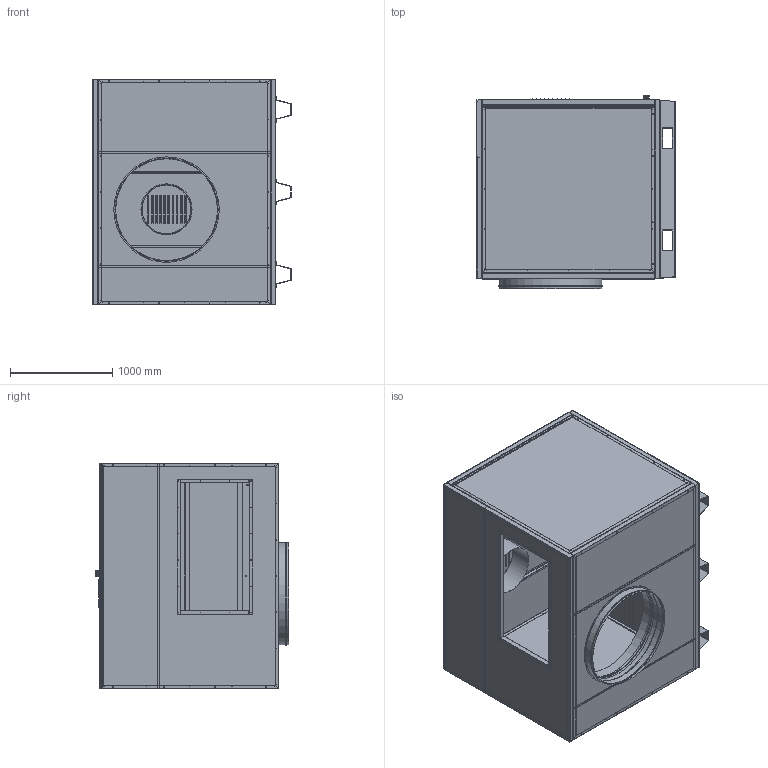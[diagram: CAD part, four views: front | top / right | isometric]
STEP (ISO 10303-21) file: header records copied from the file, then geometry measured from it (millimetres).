
FILE_DESCRIPTION(/* description */ (''),/* implementation_level */ '2;1');
FILE_NAME(/* name */ 'Component45.step',/* time_stamp */ '2024-09-02T11:41:49+02:00',/* author */ (''),/* organization */ (''),/* preprocessor_version */ 'ST-DEVELOPER v20',/* originating_system */ 'Autodesk Translation Framework v13.20.0.188',/* authorisation */ '');
FILE_SCHEMA (('AUTOMOTIVE_DESIGN { 1 0 10303 214 3 1 1 }'));
Products named in the file (1): FusionComponent
Bounding box: 1941.8 x 1890.33 x 2208 mm (x, y, z)
Volume: 586574484.4 mm3; surface area: 56661258.5 mm2
Topology: 1 solids, 26 shells, 2255 faces, 5699 edges, 3623 vertices
Faces by surface type: plane 1528, cylinder 705, bspline 16, torus 3, cone 3
Full cylindrical faces by diameter (mm): 5 x281, 6.779 x30, 9 x100, 12.5 x6, 38 x1, 38.5 x1, 43 x1, 50.5 x1, 54 x3, 55.5 x1, 56 x1, 59 x1, 480 x1, 996 x2, 998 x5, 998.285 x2, 999.967 x4, 1000 x6, 1001 x2, 1004 x1, 1008.953 x2, 1032 x1
Entity records: 69422 total; most frequent: CARTESIAN_POINT 13025, DIRECTION 11590, ORIENTED_EDGE 11406, EDGE_CURVE 5703, LINE 4118, VECTOR 4118, AXIS2_PLACEMENT_3D 3736, VERTEX_POINT 3627
